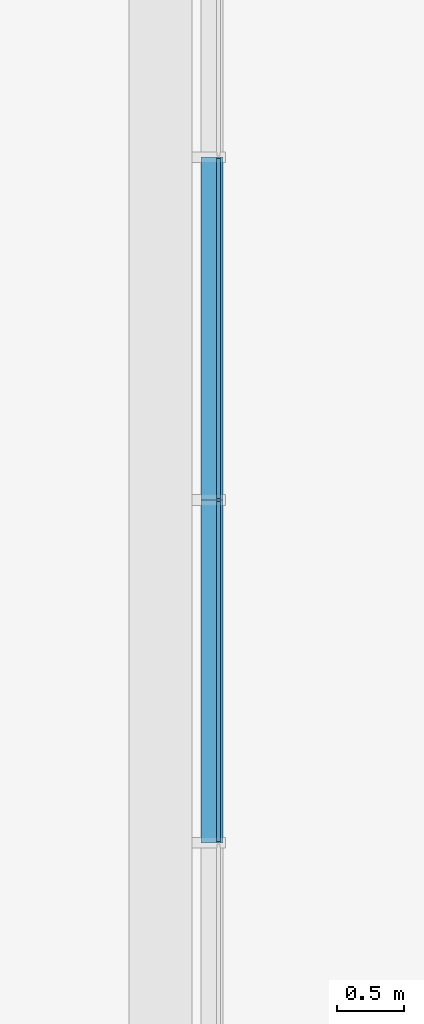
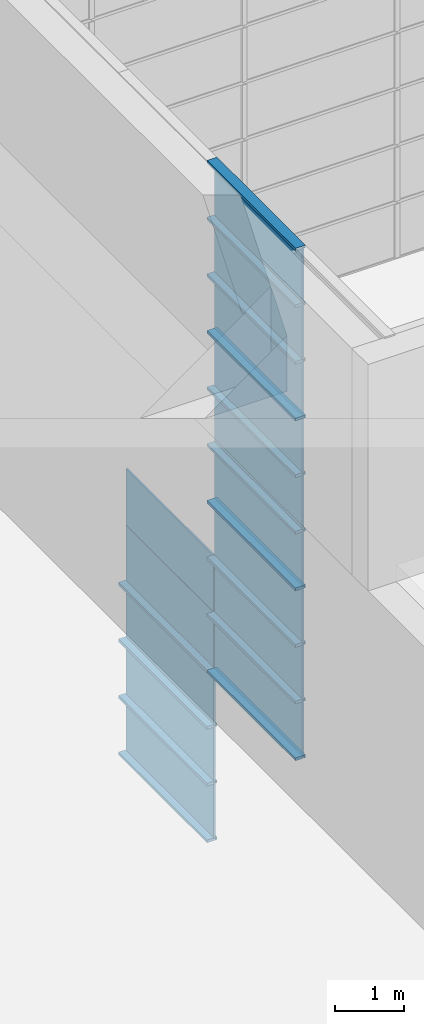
# One storey, part 25 of 105: 31 building element parts, 4 elements without a shape of their own.
"""IFC4 building model written with IfcOpenShell, lengths in millimetres."""

import ifcopenshell
import ifcopenshell.guid

model = None  # the IFC model being written
_history = None  # IfcOwnerHistory: only IFC2X3 demands one
_inside = {}  # id of a spatial element -> (the spatial element, [elements in it])
_under = {}  # id of a project, library or spatial element -> (it, [spatial elements below it])
_declared = {}  # id of a project -> (the project, [libraries it declares])
_typed = {}  # id of a type object -> (the type object, [elements of that type])
_made_of = {}  # id of a material, layer set ... -> (it, [elements and type objects made of it])


def new_model(schema):
    """Start an empty IFC model of exactly this schema.

    Asked for "IFC4X3", IfcOpenShell would pick the latest addendum, in which some entities
    have other attributes; the version numbers below select the first issue.
    IFC2X3 requires an IfcOwnerHistory on every rooted entity: one is made here for all.
    """
    global model, _history
    if schema == "IFC4X3":
        model = ifcopenshell.file(schema_version=(4, 3, 0, 0))
    else:
        model = ifcopenshell.file(schema=schema)
    _inside.clear()
    _under.clear()
    _declared.clear()
    _typed.clear()
    _made_of.clear()
    _history = None
    if model.schema == "IFC2X3":
        org = make("IfcOrganization", Name="unknown")
        user = make(
            "IfcPersonAndOrganization",
            ThePerson=make("IfcPerson", FamilyName="unknown"),
            TheOrganization=org,
        )
        app = make(
            "IfcApplication",
            ApplicationDeveloper=org,
            Version="unknown",
            ApplicationFullName="unknown",
            ApplicationIdentifier="unknown",
        )
        _history = make(
            "IfcOwnerHistory",
            OwningUser=user,
            OwningApplication=app,
            ChangeAction="ADDED",
            CreationDate=0,
        )
    return model


def make(cls, **values):
    """One entity of the class cls with the attributes given. An attribute that is None is left unset."""
    return model.create_entity(
        cls, **{name: value for name, value in values.items() if value is not None}
    )


def entity(cls, *values):
    """Any entity or typed value of the class cls, its attributes in the order of the schema. None: left unset."""
    e = model.create_entity(cls)
    for i, value in enumerate(values):
        if value is not None:
            e[i] = value
    return e


def rooted(cls, **values):
    """An entity with a GlobalId (a new one), such as an element, a storey or a relation."""
    return make(cls, GlobalId=ifcopenshell.guid.new(), OwnerHistory=_history, **values)


def si_unit(unit_type, name, prefix=None):
    """IfcSIUnit, for example si_unit("LENGTHUNIT", "METRE", prefix="MILLI")."""
    return make("IfcSIUnit", UnitType=unit_type, Prefix=prefix, Name=name)


def converted_unit(unit_type, name, factor, base, dimensions=None, offset=None):
    """IfcConversionBasedUnit, such as the inch: factor (a typed value) times the base unit."""
    return make(
        "IfcConversionBasedUnit"
        if offset is None
        else "IfcConversionBasedUnitWithOffset",
        ConversionOffset=offset,
        Dimensions=None
        if dimensions is None
        else entity("IfcDimensionalExponents", *dimensions),
        UnitType=unit_type,
        Name=name,
        ConversionFactor=make(
            "IfcMeasureWithUnit", ValueComponent=factor, UnitComponent=base
        ),
    )


def derived_unit(unit_type, elements):
    """IfcDerivedUnit: a product of units, each with its exponent."""
    return make(
        "IfcDerivedUnit",
        Elements=[
            make("IfcDerivedUnitElement", Unit=unit, Exponent=power)
            for unit, power in elements
        ],
        UnitType=unit_type,
    )


def assignment(units):
    """IfcUnitAssignment: the units of a project."""
    return None if units is None else make("IfcUnitAssignment", Units=units)


def point(xyz):
    """IfcCartesianPoint."""
    return None if xyz is None else make("IfcCartesianPoint", Coordinates=xyz)


def direction(xyz):
    """IfcDirection."""
    return None if xyz is None else make("IfcDirection", DirectionRatios=xyz)


def frame(location, z_axis=None, x_axis=None):
    """IfcAxis2Placement3D, a coordinate frame: its origin and axes. An axis left out is left unset."""
    return make(
        "IfcAxis2Placement3D",
        Location=point(location),
        Axis=direction(z_axis),
        RefDirection=direction(x_axis),
    )


def origin_with_axes():
    """The frame at (0, 0, 0) with the z axis (0, 0, 1) and the x axis (1, 0, 0) written out."""
    return frame((0.0, 0.0, 0.0), z_axis=(0.0, 0.0, 1.0), x_axis=(1.0, 0.0, 0.0))


def place(relative_to, where):
    """IfcLocalPlacement: puts the frame where relative to a parent placement (None: the world)."""
    return make(
        "IfcLocalPlacement", PlacementRelTo=relative_to, RelativePlacement=where
    )


def context(
    kind, dimensions, precision=None, world=None, true_north=None, identifier=None
):
    """IfcGeometricRepresentationContext, for example the 3D "Model" context."""
    return make(
        "IfcGeometricRepresentationContext",
        ContextIdentifier=identifier,
        ContextType=kind,
        CoordinateSpaceDimension=dimensions,
        Precision=precision,
        WorldCoordinateSystem=world,
        TrueNorth=true_north,
    )


def subcontext(parent, identifier, kind, view, scale=None):
    """IfcGeometricRepresentationSubContext, for example "Body" below "Model"."""
    return make(
        "IfcGeometricRepresentationSubContext",
        ContextIdentifier=identifier,
        ContextType=kind,
        ParentContext=parent,
        TargetScale=scale,
        TargetView=view,
    )


def project(units=None, contexts=None):
    """IfcProject with its units and contexts."""
    return rooted(
        "IfcProject",
        Name="project",
        RepresentationContexts=contexts,
        UnitsInContext=assignment(units),
    )


def spatial(cls, under=None, at=None, **own):
    """A site, building, storey or space (cls), placed at a placement, below another one or the project."""
    s = rooted(cls, ObjectPlacement=at, **own)
    if under is not None:
        _under.setdefault(under.id(), (under, []))[1].append(s)
    return s


def point_list(points):
    """IfcCartesianPointList2D or 3D."""
    cls = (
        "IfcCartesianPointList2D" if len(points[0]) == 2 else "IfcCartesianPointList3D"
    )
    return make(cls, CoordList=points)


def triangles(points, corners, closed=None, point_numbers=None):
    """IfcTriangulatedFaceSet: each triangle names its three corners, points numbered from 1."""
    return make(
        "IfcTriangulatedFaceSet",
        Coordinates=point_list(points),
        Closed=closed,
        CoordIndex=corners,
        PnIndex=point_numbers,
    )


def shape(context_of_items, identifier, shape_type, items):
    """IfcShapeRepresentation: the items that make up one representation, for example the "Body"."""
    return make(
        "IfcShapeRepresentation",
        ContextOfItems=context_of_items,
        RepresentationIdentifier=identifier,
        RepresentationType=shape_type,
        Items=items,
    )


def material(Name=None, Category=None):
    """IfcMaterial."""
    return make("IfcMaterial", Name=Name, Category=Category)


def made_of(thing, what):
    """Note that an element or type object is made of a material, layer set ...; save() writes the relation."""
    if what is not None:
        _made_of.setdefault(what.id(), (what, []))[1].append(thing)
    return thing


def element(
    cls,
    number,
    at=None,
    inside=None,
    cuts=None,
    type_object=None,
    material=None,
    context=None,
    identifier="Body",
    shape_type=None,
    held_by="IfcProductDefinitionShape",
    body=None,
    shapes=None,
    **own,
):
    """One element of the class cls, such as IfcWall. Its Tag is "e" and its number.

    at: its placement. inside: the storey or other place that contains it. cuts: it is an
    opening in that element (IfcRelVoidsElement). A single representation is given by context,
    identifier, shape_type and body (its items); several are given by shapes. held_by: the class
    of the entity that holds the representations. save() writes the other relations.
    """
    e = rooted(cls, Tag="e%d" % number, ObjectPlacement=at, **own)
    if body is not None:
        shapes = [shape(context, identifier, shape_type, body)]
    if shapes is not None:
        e.Representation = make(held_by, Representations=shapes)
    if inside is not None:
        _inside.setdefault(inside.id(), (inside, []))[1].append(e)
    if cuts is not None:
        rooted(
            "IfcRelVoidsElement", RelatingBuildingElement=cuts, RelatedOpeningElement=e
        )
    if type_object is not None:
        _typed.setdefault(type_object.id(), (type_object, []))[1].append(e)
    return made_of(e, material)


def aggregate(whole, parts):
    """IfcRelAggregates: a whole, such as a stair, and the parts it consists of."""
    return rooted("IfcRelAggregates", RelatingObject=whole, RelatedObjects=parts)


def save(model, path):
    """Write the relations noted so far, then the file.

    IfcRelAggregates (storeys below a building ...), IfcRelContainedInSpatialStructure (elements
    in a storey), IfcRelDefinesByType, IfcRelAssociatesMaterial and IfcRelDeclares: one each for
    every whole, place, type object, material and project.
    """
    for whole, parts in _under.values():
        aggregate(whole, parts)
    for where, things in _inside.values():
        rooted(
            "IfcRelContainedInSpatialStructure",
            RelatedElements=things,
            RelatingStructure=where,
        )
    for kind, things in _typed.values():
        rooted("IfcRelDefinesByType", RelatedObjects=things, RelatingType=kind)
    for what, things in _made_of.values():
        rooted("IfcRelAssociatesMaterial", RelatedObjects=things, RelatingMaterial=what)
    for by, libraries in _declared.values():
        rooted("IfcRelDeclares", RelatingContext=by, RelatedDefinitions=libraries)
    model.write(path)


model = new_model("IFC4")

# Units and contexts
model_context = context("Model", 3, precision=1e-05, world=origin_with_axes(), true_north=direction((0.0, 1.0)))
body_context = subcontext(model_context, "Body", "Model", "MODEL_VIEW")
ifc_project = project(units=[si_unit("LENGTHUNIT", "METRE", prefix="MILLI"), si_unit("AREAUNIT", "SQUARE_METRE"), si_unit("VOLUMEUNIT", "CUBIC_METRE"), converted_unit("PLANEANGLEUNIT", "DEGREE", entity("IfcLengthMeasure", 0.017453), si_unit("PLANEANGLEUNIT", "RADIAN"), dimensions=[0, 0, 0, 0, 0, 0, 0]), si_unit("SOLIDANGLEUNIT", "STERADIAN"), si_unit("MASSUNIT", "GRAM"), si_unit("TIMEUNIT", "SECOND"), si_unit("THERMODYNAMICTEMPERATUREUNIT", "DEGREE_CELSIUS"), si_unit("LUMINOUSINTENSITYUNIT", "LUMEN"), si_unit("POWERUNIT", "WATT"), derived_unit("THERMALTRANSMITTANCEUNIT", [(si_unit("POWERUNIT", "WATT"), 1), (si_unit("THERMODYNAMICTEMPERATUREUNIT", "KELVIN"), -1), (si_unit("AREAUNIT", "SQUARE_METRE"), -1)])], contexts=[model_context])

# Site, building, storey
site_placement = place(None, origin_with_axes())
site = spatial("IfcSite", under=ifc_project, at=site_placement, Name="Default Site", CompositionType="ELEMENT")
building_placement = place(site_placement, origin_with_axes())
building = spatial("IfcBuilding", under=site, at=building_placement, Name="Default Building", CompositionType="ELEMENT")
storey_placement = place(building_placement, origin_with_axes())
storey = spatial("IfcBuildingStorey", under=building, at=storey_placement, Name="OG - Story", CompositionType="ELEMENT", Elevation=0.0)

# Curtain wall, building element parts
curtain_wall_1_placement = place(storey_placement, origin_with_axes())
curtain_wall_1 = element("IfcCurtainWall", 1, at=curtain_wall_1_placement, inside=storey, Name="Fassade-006", PredefinedType="NOTDEFINED")
ifc_material_1 = material(Name="Normalglas")
building_element_part_1_placement = place(curtain_wall_1_placement, frame((51421.391327, -39309.262838, 0.0), z_axis=(0.0, 0.0, 1.0), x_axis=(1.0, 0.0, 0.0)))
building_element_part_1 = element("IfcBuildingElementPart", 2, at=building_element_part_1_placement, material=ifc_material_1, Name="Normalglas", PredefinedType="NOTDEFINED", context=body_context, shape_type="Tessellation", body=[
    triangles([(-14.999, 6390.0, 995.0), (-14.999, 3850.0, 995.0), (15.0, 3850.0, 995.0), (15.0, 6390.0, 995.0), (-14.999, 6390.0, 5.0), (-14.999, 3850.0, 5.0), (15.0, 3850.0, 5.0), (15.0, 6390.0, 5.0)], [[1, 2, 3], [1, 3, 4], [1, 5, 6], [1, 6, 2], [2, 6, 7], [2, 7, 3], [4, 3, 7], [4, 7, 8], [5, 1, 4], [5, 4, 8], [6, 5, 8], [6, 8, 7]], closed=False),
])
building_element_part_2_placement = place(curtain_wall_1_placement, frame((51421.391327, -39309.262838, 0.0), z_axis=(0.0, 0.0, 1.0), x_axis=(1.0, 0.0, 0.0)))
building_element_part_2 = element("IfcBuildingElementPart", 3, at=building_element_part_2_placement, material=ifc_material_1, Name="Normalglas", PredefinedType="NOTDEFINED", context=body_context, shape_type="Tessellation", body=[
    triangles([(-14.999, 6390.0, 1995.0), (-14.999, 3850.0, 1995.0), (15.0, 3850.0, 1995.0), (15.0, 6390.0, 1995.0), (-14.999, 6390.0, 1005.0), (-14.999, 3850.0, 1005.0), (15.0, 3850.0, 1005.0), (15.0, 6390.0, 1005.0)], [[1, 2, 3], [1, 3, 4], [1, 5, 6], [1, 6, 2], [2, 6, 7], [2, 7, 3], [4, 3, 7], [4, 7, 8], [5, 1, 4], [5, 4, 8], [6, 5, 8], [6, 8, 7]], closed=False),
])
building_element_part_3_placement = place(curtain_wall_1_placement, frame((51421.391327, -39309.262838, 0.0), z_axis=(0.0, 0.0, 1.0), x_axis=(1.0, 0.0, 0.0)))
building_element_part_3 = element("IfcBuildingElementPart", 4, at=building_element_part_3_placement, material=ifc_material_1, Name="Normalglas", PredefinedType="NOTDEFINED", context=body_context, shape_type="Tessellation", body=[
    triangles([(-14.999, 6390.0, 2995.0), (-14.999, 3850.0, 2995.0), (15.0, 3850.0, 2995.0), (15.0, 6390.0, 2995.0), (-14.999, 6390.0, 2005.0), (-14.999, 3850.0, 2005.0), (15.0, 3850.0, 2005.0), (15.0, 6390.0, 2005.0)], [[1, 2, 3], [1, 3, 4], [1, 5, 6], [1, 6, 2], [2, 6, 7], [2, 7, 3], [4, 3, 7], [4, 7, 8], [5, 1, 4], [5, 4, 8], [6, 5, 8], [6, 8, 7]], closed=False),
])
ifc_material_2 = material(Name="Blech")
building_element_part_4_placement = place(curtain_wall_1_placement, frame((51421.391327, -39309.262838, 0.0), z_axis=(0.0, 0.0, 1.0), x_axis=(1.0, 0.0, 0.0)))
building_element_part_4 = element("IfcBuildingElementPart", 5, at=building_element_part_4_placement, material=ifc_material_2, Name="Blech", PredefinedType="NOTDEFINED", context=body_context, shape_type="Tessellation", body=[
    triangles([(15.0, 6400.0, 5.0), (-14.999, 6400.0, 5.0), (-132.999, 6400.0, -24.999), (35.0, 6400.0, -24.999), (35.0, 6400.0, 25.0), (15.0, 6400.0, 25.0), (-132.999, 6400.0, 25.0), (-14.999, 6400.0, 25.0), (-14.999, 3840.0, 5.0), (15.0, 3840.0, 5.0), (15.0, 3840.0, 25.0), (35.0, 3840.0, 25.0), (35.0, 3840.0, -24.999), (-132.999, 3840.0, -24.999), (-132.999, 3840.0, 25.0), (-14.999, 3840.0, 25.0)], [[1, 2, 3], [1, 3, 4], [1, 4, 5], [1, 5, 6], [7, 3, 2], [7, 2, 8], [1, 2, 9], [1, 9, 10], [11, 6, 1], [11, 1, 10], [6, 11, 12], [6, 12, 5], [13, 4, 5], [13, 5, 12], [14, 3, 4], [14, 4, 13], [15, 7, 3], [15, 3, 14], [16, 8, 7], [16, 7, 15], [2, 8, 16], [2, 16, 9], [16, 15, 9], [9, 15, 14], [9, 14, 10], [10, 14, 13], [10, 13, 12], [10, 12, 11]], closed=False),
])
building_element_part_5_placement = place(curtain_wall_1_placement, frame((51421.391327, -39309.262838, 0.0), z_axis=(0.0, 0.0, 1.0), x_axis=(1.0, 0.0, 0.0)))
building_element_part_5 = element("IfcBuildingElementPart", 6, at=building_element_part_5_placement, material=ifc_material_2, Name="Blech", PredefinedType="NOTDEFINED", context=body_context, shape_type="Tessellation", body=[
    triangles([(15.0, 6400.0, 1025.0), (35.0, 6400.0, 1025.0), (15.0, 6400.0, 1005.0), (15.0, 6400.0, 995.0), (-14.999, 6400.0, 1005.0), (-132.999, 6400.0, 1025.0), (-14.999, 6400.0, 1025.0), (35.0, 6400.0, 975.0), (15.0, 6400.0, 975.0), (-14.999, 6400.0, 995.0), (-14.999, 6400.0, 975.0), (-132.999, 6400.0, 975.0), (-14.999, 3840.0, 995.0), (-14.999, 3840.0, 975.0), (-132.999, 3840.0, 975.0), (-132.999, 3840.0, 1025.0), (-14.999, 3840.0, 1025.0), (-14.999, 3840.0, 1005.0), (15.0, 3840.0, 1005.0), (15.0, 3840.0, 1025.0), (35.0, 3840.0, 1025.0), (35.0, 3840.0, 975.0), (15.0, 3840.0, 975.0), (15.0, 3840.0, 995.0)], [[1, 2, 3], [3, 2, 4], [3, 4, 5], [5, 4, 6], [5, 6, 7], [8, 9, 4], [8, 4, 2], [6, 4, 10], [6, 10, 11], [6, 11, 12], [11, 10, 13], [11, 13, 14], [11, 14, 15], [11, 15, 12], [6, 12, 15], [6, 15, 16], [7, 6, 16], [7, 16, 17], [7, 17, 18], [7, 18, 5], [5, 18, 19], [5, 19, 3], [1, 3, 19], [1, 19, 20], [20, 21, 2], [20, 2, 1], [8, 2, 21], [8, 21, 22], [23, 9, 8], [23, 8, 22], [4, 9, 23], [4, 23, 24], [10, 4, 24], [10, 24, 13], [17, 16, 18], [18, 16, 13], [18, 13, 19], [19, 13, 24], [19, 24, 21], [21, 24, 23], [21, 23, 22], [15, 14, 13], [15, 13, 16], [19, 21, 20]], closed=False),
])
building_element_part_6_placement = place(curtain_wall_1_placement, frame((51421.391327, -39309.262838, 0.0), z_axis=(0.0, 0.0, 1.0), x_axis=(1.0, 0.0, 0.0)))
building_element_part_6 = element("IfcBuildingElementPart", 7, at=building_element_part_6_placement, material=ifc_material_2, Name="Blech", PredefinedType="NOTDEFINED", context=body_context, shape_type="Tessellation", body=[
    triangles([(15.0, 3840.0, 2995.0), (-14.999, 3840.0, 2995.0), (-132.999, 3840.0, 3025.0), (35.0, 3840.0, 3025.0), (35.0, 3840.0, 2975.0), (15.0, 3840.0, 2975.0), (-14.999, 3840.0, 2975.0), (-132.999, 3840.0, 2975.0), (-14.999, 1280.0, 2995.0), (-14.999, 1280.0, 2975.0), (-132.999, 1280.0, 2975.0), (-132.999, 1280.0, 3025.0), (35.0, 1280.0, 3025.0), (35.0, 1280.0, 2975.0), (15.0, 1280.0, 2975.0), (15.0, 1280.0, 2995.0)], [[1, 2, 3], [1, 3, 4], [1, 4, 5], [1, 5, 6], [7, 8, 3], [7, 3, 2], [2, 9, 10], [2, 10, 7], [10, 11, 8], [10, 8, 7], [11, 12, 3], [11, 3, 8], [12, 13, 4], [12, 4, 3], [13, 14, 5], [13, 5, 4], [6, 5, 14], [6, 14, 15], [15, 16, 1], [15, 1, 6], [1, 16, 9], [1, 9, 2], [16, 9, 12], [16, 12, 13], [16, 13, 14], [16, 14, 15], [10, 11, 12], [10, 12, 9]], closed=False),
])
building_element_part_7_placement = place(curtain_wall_1_placement, frame((51421.391327, -39309.262838, 0.0), z_axis=(0.0, 0.0, 1.0), x_axis=(1.0, 0.0, 0.0)))
building_element_part_7 = element("IfcBuildingElementPart", 8, at=building_element_part_7_placement, material=ifc_material_2, Name="Blech", PredefinedType="NOTDEFINED", context=body_context, shape_type="Tessellation", body=[
    triangles([(15.0, 6400.0, 2025.0), (35.0, 6400.0, 2025.0), (15.0, 6400.0, 2005.0), (15.0, 6400.0, 1995.0), (-14.999, 6400.0, 2005.0), (-132.999, 6400.0, 2025.0), (-14.999, 6400.0, 2025.0), (35.0, 6400.0, 1975.0), (15.0, 6400.0, 1975.0), (-14.999, 6400.0, 1995.0), (-14.999, 6400.0, 1975.0), (-132.999, 6400.0, 1975.0), (-14.999, 3840.0, 1995.0), (-14.999, 3840.0, 1975.0), (-132.999, 3840.0, 1975.0), (-132.999, 3840.0, 2025.0), (-14.999, 3840.0, 2025.0), (-14.999, 3840.0, 2005.0), (15.0, 3840.0, 2005.0), (15.0, 3840.0, 2025.0), (35.0, 3840.0, 2025.0), (35.0, 3840.0, 1975.0), (15.0, 3840.0, 1975.0), (15.0, 3840.0, 1995.0)], [[1, 2, 3], [3, 2, 4], [3, 4, 5], [5, 4, 6], [5, 6, 7], [8, 9, 4], [8, 4, 2], [6, 4, 10], [6, 10, 11], [6, 11, 12], [11, 10, 13], [11, 13, 14], [11, 14, 15], [11, 15, 12], [6, 12, 15], [6, 15, 16], [7, 6, 16], [7, 16, 17], [7, 17, 18], [7, 18, 5], [5, 18, 19], [5, 19, 3], [1, 3, 19], [1, 19, 20], [20, 21, 2], [20, 2, 1], [8, 2, 21], [8, 21, 22], [23, 9, 8], [23, 8, 22], [4, 9, 23], [4, 23, 24], [10, 4, 24], [10, 24, 13], [17, 16, 18], [18, 16, 13], [18, 13, 19], [19, 13, 24], [19, 24, 21], [21, 24, 23], [21, 23, 22], [15, 14, 13], [15, 13, 16], [19, 21, 20]], closed=False),
])
building_element_part_8_placement = place(curtain_wall_1_placement, frame((51421.391327, -39309.262838, 0.0), z_axis=(0.0, 0.0, 1.0), x_axis=(1.0, 0.0, 0.0)))
building_element_part_8 = element("IfcBuildingElementPart", 9, at=building_element_part_8_placement, material=ifc_material_2, Name="Blech", PredefinedType="NOTDEFINED", context=body_context, shape_type="Tessellation", body=[
    triangles([(15.0, 6400.0, 2995.0), (-14.999, 6400.0, 2995.0), (-132.999, 6400.0, 3025.0), (35.0, 6400.0, 3025.0), (35.0, 6400.0, 2975.0), (15.0, 6400.0, 2975.0), (-14.999, 6400.0, 2975.0), (-132.999, 6400.0, 2975.0), (-14.999, 3840.0, 2995.0), (-14.999, 3840.0, 2975.0), (-132.999, 3840.0, 2975.0), (-132.999, 3840.0, 3025.0), (35.0, 3840.0, 3025.0), (35.0, 3840.0, 2975.0), (15.0, 3840.0, 2975.0), (15.0, 3840.0, 2995.0)], [[1, 2, 3], [1, 3, 4], [1, 4, 5], [1, 5, 6], [7, 8, 3], [7, 3, 2], [2, 9, 10], [2, 10, 7], [10, 11, 8], [10, 8, 7], [11, 12, 3], [11, 3, 8], [12, 13, 4], [12, 4, 3], [13, 14, 5], [13, 5, 4], [6, 5, 14], [6, 14, 15], [15, 16, 1], [15, 1, 6], [1, 16, 9], [1, 9, 2], [16, 9, 12], [16, 12, 13], [16, 13, 14], [16, 14, 15], [10, 11, 12], [10, 12, 9]], closed=False),
])
aggregate(curtain_wall_1, [building_element_part_1, building_element_part_2, building_element_part_3, building_element_part_4, building_element_part_5, building_element_part_6, building_element_part_7, building_element_part_8])

curtain_wall_2_placement = place(storey_placement, origin_with_axes())
curtain_wall_2 = element("IfcCurtainWall", 10, at=curtain_wall_2_placement, inside=storey, Name="Fassade-006", PredefinedType="NOTDEFINED")
building_element_part_9_placement = place(curtain_wall_2_placement, frame((51421.391327, -39309.262838, 3000.0), z_axis=(0.0, 0.0, 1.0), x_axis=(1.0, 0.0, 0.0)))
building_element_part_9 = element("IfcBuildingElementPart", 11, at=building_element_part_9_placement, material=ifc_material_1, Name="Normalglas", PredefinedType="NOTDEFINED", context=body_context, shape_type="Tessellation", body=[
    triangles([(-14.999, 3830.0, 995.0), (-14.999, 1290.0, 995.0), (15.0, 1290.0, 995.0), (15.0, 3830.0, 995.0), (-14.999, 3830.0, 5.0), (-14.999, 1290.0, 5.0), (15.0, 1290.0, 5.0), (15.0, 3830.0, 5.0)], [[1, 2, 3], [1, 3, 4], [1, 5, 6], [1, 6, 2], [2, 6, 7], [2, 7, 3], [4, 3, 7], [4, 7, 8], [5, 1, 4], [5, 4, 8], [6, 5, 8], [6, 8, 7]], closed=False),
])
building_element_part_10_placement = place(curtain_wall_2_placement, frame((51421.391327, -39309.262838, 3000.0), z_axis=(0.0, 0.0, 1.0), x_axis=(1.0, 0.0, 0.0)))
building_element_part_10 = element("IfcBuildingElementPart", 12, at=building_element_part_10_placement, material=ifc_material_1, Name="Normalglas", PredefinedType="NOTDEFINED", context=body_context, shape_type="Tessellation", body=[
    triangles([(-14.999, 6390.0, 995.0), (-14.999, 3850.0, 995.0), (15.0, 3850.0, 995.0), (15.0, 6390.0, 995.0), (-14.999, 6390.0, 5.0), (-14.999, 3850.0, 5.0), (15.0, 3850.0, 5.0), (15.0, 6390.0, 5.0)], [[1, 2, 3], [1, 3, 4], [1, 5, 6], [1, 6, 2], [2, 6, 7], [2, 7, 3], [4, 3, 7], [4, 7, 8], [5, 1, 4], [5, 4, 8], [6, 5, 8], [6, 8, 7]], closed=False),
])
building_element_part_11_placement = place(curtain_wall_2_placement, frame((51421.391327, -39309.262838, 3000.0), z_axis=(0.0, 0.0, 1.0), x_axis=(1.0, 0.0, 0.0)))
building_element_part_11 = element("IfcBuildingElementPart", 13, at=building_element_part_11_placement, material=ifc_material_1, Name="Normalglas", PredefinedType="NOTDEFINED", context=body_context, shape_type="Tessellation", body=[
    triangles([(-14.999, 3830.0, 1995.0), (-14.999, 1290.0, 1995.0), (15.0, 1290.0, 1995.0), (15.0, 3830.0, 1995.0), (-14.999, 3830.0, 1005.0), (-14.999, 1290.0, 1005.0), (15.0, 1290.0, 1005.0), (15.0, 3830.0, 1005.0)], [[1, 2, 3], [1, 3, 4], [1, 5, 6], [1, 6, 2], [2, 6, 7], [2, 7, 3], [4, 3, 7], [4, 7, 8], [5, 1, 4], [5, 4, 8], [6, 5, 8], [6, 8, 7]], closed=False),
])
building_element_part_12_placement = place(curtain_wall_2_placement, frame((51421.391327, -39309.262838, 3000.0), z_axis=(0.0, 0.0, 1.0), x_axis=(1.0, 0.0, 0.0)))
building_element_part_12 = element("IfcBuildingElementPart", 14, at=building_element_part_12_placement, material=ifc_material_1, Name="Normalglas", PredefinedType="NOTDEFINED", context=body_context, shape_type="Tessellation", body=[
    triangles([(-14.999, 6390.0, 1995.0), (-14.999, 3850.0, 1995.0), (15.0, 3850.0, 1995.0), (15.0, 6390.0, 1995.0), (-14.999, 6390.0, 1005.0), (-14.999, 3850.0, 1005.0), (15.0, 3850.0, 1005.0), (15.0, 6390.0, 1005.0)], [[1, 2, 3], [1, 3, 4], [1, 5, 6], [1, 6, 2], [2, 6, 7], [2, 7, 3], [4, 3, 7], [4, 7, 8], [5, 1, 4], [5, 4, 8], [6, 5, 8], [6, 8, 7]], closed=False),
])
building_element_part_13_placement = place(curtain_wall_2_placement, frame((51421.391327, -39309.262838, 3000.0), z_axis=(0.0, 0.0, 1.0), x_axis=(1.0, 0.0, 0.0)))
building_element_part_13 = element("IfcBuildingElementPart", 15, at=building_element_part_13_placement, material=ifc_material_1, Name="Normalglas", PredefinedType="NOTDEFINED", context=body_context, shape_type="Tessellation", body=[
    triangles([(-14.999, 3830.0, 2995.0), (-14.999, 1290.0, 2995.0), (15.0, 1290.0, 2995.0), (15.0, 3830.0, 2995.0), (-14.999, 3830.0, 2005.0), (-14.999, 1290.0, 2005.0), (15.0, 1290.0, 2005.0), (15.0, 3830.0, 2005.0)], [[1, 2, 3], [1, 3, 4], [1, 5, 6], [1, 6, 2], [2, 6, 7], [2, 7, 3], [4, 3, 7], [4, 7, 8], [5, 1, 4], [5, 4, 8], [6, 5, 8], [6, 8, 7]], closed=False),
])
building_element_part_14_placement = place(curtain_wall_2_placement, frame((51421.391327, -39309.262838, 3000.0), z_axis=(0.0, 0.0, 1.0), x_axis=(1.0, 0.0, 0.0)))
building_element_part_14 = element("IfcBuildingElementPart", 16, at=building_element_part_14_placement, material=ifc_material_2, Name="Blech", PredefinedType="NOTDEFINED", context=body_context, shape_type="Tessellation", body=[
    triangles([(15.0, 3840.0, 5.0), (-14.999, 3840.0, 5.0), (-132.999, 3840.0, -24.999), (35.0, 3840.0, -24.999), (35.0, 3840.0, 25.0), (15.0, 3840.0, 25.0), (-132.999, 3840.0, 25.0), (-14.999, 3840.0, 25.0), (-14.999, 1280.0, 5.0), (15.0, 1280.0, 5.0), (15.0, 1280.0, 25.0), (35.0, 1280.0, 25.0), (35.0, 1280.0, -24.999), (-132.999, 1280.0, -24.999), (-132.999, 1280.0, 25.0), (-14.999, 1280.0, 25.0)], [[1, 2, 3], [1, 3, 4], [1, 4, 5], [1, 5, 6], [7, 3, 2], [7, 2, 8], [1, 2, 9], [1, 9, 10], [11, 6, 1], [11, 1, 10], [6, 11, 12], [6, 12, 5], [13, 4, 5], [13, 5, 12], [14, 3, 4], [14, 4, 13], [15, 7, 3], [15, 3, 14], [16, 8, 7], [16, 7, 15], [2, 8, 16], [2, 16, 9], [16, 15, 9], [9, 15, 14], [9, 14, 10], [10, 14, 13], [10, 13, 12], [10, 12, 11]], closed=False),
])
building_element_part_15_placement = place(curtain_wall_2_placement, frame((51421.391327, -39309.262838, 3000.0), z_axis=(0.0, 0.0, 1.0), x_axis=(1.0, 0.0, 0.0)))
building_element_part_15 = element("IfcBuildingElementPart", 17, at=building_element_part_15_placement, material=ifc_material_2, Name="Blech", PredefinedType="NOTDEFINED", context=body_context, shape_type="Tessellation", body=[
    triangles([(15.0, 3840.0, 1025.0), (35.0, 3840.0, 1025.0), (15.0, 3840.0, 1005.0), (15.0, 3840.0, 995.0), (-14.999, 3840.0, 1005.0), (-132.999, 3840.0, 1025.0), (-14.999, 3840.0, 1025.0), (35.0, 3840.0, 975.0), (15.0, 3840.0, 975.0), (-14.999, 3840.0, 995.0), (-14.999, 3840.0, 975.0), (-132.999, 3840.0, 975.0), (-14.999, 1280.0, 995.0), (-14.999, 1280.0, 975.0), (-132.999, 1280.0, 975.0), (-132.999, 1280.0, 1025.0), (-14.999, 1280.0, 1025.0), (-14.999, 1280.0, 1005.0), (15.0, 1280.0, 1005.0), (15.0, 1280.0, 1025.0), (35.0, 1280.0, 1025.0), (35.0, 1280.0, 975.0), (15.0, 1280.0, 975.0), (15.0, 1280.0, 995.0)], [[1, 2, 3], [3, 2, 4], [3, 4, 5], [5, 4, 6], [5, 6, 7], [8, 9, 4], [8, 4, 2], [6, 4, 10], [6, 10, 11], [6, 11, 12], [11, 10, 13], [11, 13, 14], [11, 14, 15], [11, 15, 12], [6, 12, 15], [6, 15, 16], [7, 6, 16], [7, 16, 17], [7, 17, 18], [7, 18, 5], [5, 18, 19], [5, 19, 3], [1, 3, 19], [1, 19, 20], [20, 21, 2], [20, 2, 1], [8, 2, 21], [8, 21, 22], [23, 9, 8], [23, 8, 22], [4, 9, 23], [4, 23, 24], [10, 4, 24], [10, 24, 13], [17, 16, 18], [18, 16, 13], [18, 13, 19], [19, 13, 24], [19, 24, 21], [21, 24, 23], [21, 23, 22], [15, 14, 13], [15, 13, 16], [19, 21, 20]], closed=False),
])
building_element_part_16_placement = place(curtain_wall_2_placement, frame((51421.391327, -39309.262838, 3000.0), z_axis=(0.0, 0.0, 1.0), x_axis=(1.0, 0.0, 0.0)))
building_element_part_16 = element("IfcBuildingElementPart", 18, at=building_element_part_16_placement, material=ifc_material_2, Name="Blech", PredefinedType="NOTDEFINED", context=body_context, shape_type="Tessellation", body=[
    triangles([(15.0, 3840.0, 2025.0), (35.0, 3840.0, 2025.0), (15.0, 3840.0, 2005.0), (15.0, 3840.0, 1995.0), (-14.999, 3840.0, 2005.0), (-132.999, 3840.0, 2025.0), (-14.999, 3840.0, 2025.0), (35.0, 3840.0, 1975.0), (15.0, 3840.0, 1975.0), (-14.999, 3840.0, 1995.0), (-14.999, 3840.0, 1975.0), (-132.999, 3840.0, 1975.0), (-14.999, 1280.0, 1995.0), (-14.999, 1280.0, 1975.0), (-132.999, 1280.0, 1975.0), (-132.999, 1280.0, 2025.0), (-14.999, 1280.0, 2025.0), (-14.999, 1280.0, 2005.0), (15.0, 1280.0, 2005.0), (15.0, 1280.0, 2025.0), (35.0, 1280.0, 2025.0), (35.0, 1280.0, 1975.0), (15.0, 1280.0, 1975.0), (15.0, 1280.0, 1995.0)], [[1, 2, 3], [3, 2, 4], [3, 4, 5], [5, 4, 6], [5, 6, 7], [8, 9, 4], [8, 4, 2], [6, 4, 10], [6, 10, 11], [6, 11, 12], [11, 10, 13], [11, 13, 14], [11, 14, 15], [11, 15, 12], [6, 12, 15], [6, 15, 16], [7, 6, 16], [7, 16, 17], [7, 17, 18], [7, 18, 5], [5, 18, 19], [5, 19, 3], [1, 3, 19], [1, 19, 20], [20, 21, 2], [20, 2, 1], [8, 2, 21], [8, 21, 22], [23, 9, 8], [23, 8, 22], [4, 9, 23], [4, 23, 24], [10, 4, 24], [10, 24, 13], [17, 16, 18], [18, 16, 13], [18, 13, 19], [19, 13, 24], [19, 24, 21], [21, 24, 23], [21, 23, 22], [15, 14, 13], [15, 13, 16], [19, 21, 20]], closed=False),
])
building_element_part_17_placement = place(curtain_wall_2_placement, frame((51421.391327, -39309.262838, 3000.0), z_axis=(0.0, 0.0, 1.0), x_axis=(1.0, 0.0, 0.0)))
building_element_part_17 = element("IfcBuildingElementPart", 19, at=building_element_part_17_placement, material=ifc_material_2, Name="Blech", PredefinedType="NOTDEFINED", context=body_context, shape_type="Tessellation", body=[
    triangles([(15.0, 3840.0, 2995.0), (-14.999, 3840.0, 2995.0), (-132.999, 3840.0, 3025.0), (35.0, 3840.0, 3025.0), (35.0, 3840.0, 2975.0), (15.0, 3840.0, 2975.0), (-14.999, 3840.0, 2975.0), (-132.999, 3840.0, 2975.0), (-14.999, 1280.0, 2995.0), (-14.999, 1280.0, 2975.0), (-132.999, 1280.0, 2975.0), (-132.999, 1280.0, 3025.0), (35.0, 1280.0, 3025.0), (35.0, 1280.0, 2975.0), (15.0, 1280.0, 2975.0), (15.0, 1280.0, 2995.0)], [[1, 2, 3], [1, 3, 4], [1, 4, 5], [1, 5, 6], [7, 8, 3], [7, 3, 2], [2, 9, 10], [2, 10, 7], [10, 11, 8], [10, 8, 7], [11, 12, 3], [11, 3, 8], [12, 13, 4], [12, 4, 3], [13, 14, 5], [13, 5, 4], [6, 5, 14], [6, 14, 15], [15, 16, 1], [15, 1, 6], [1, 16, 9], [1, 9, 2], [16, 9, 12], [16, 12, 13], [16, 13, 14], [16, 14, 15], [10, 11, 12], [10, 12, 9]], closed=False),
])
aggregate(curtain_wall_2, [building_element_part_9, building_element_part_10, building_element_part_11, building_element_part_12, building_element_part_13, building_element_part_14, building_element_part_15, building_element_part_16, building_element_part_17])

curtain_wall_3_placement = place(storey_placement, origin_with_axes())
curtain_wall_3 = element("IfcCurtainWall", 20, at=curtain_wall_3_placement, inside=storey, Name="Fassade-006", PredefinedType="NOTDEFINED")
building_element_part_18_placement = place(curtain_wall_3_placement, frame((51421.391327, -39309.262838, 6000.0), z_axis=(0.0, 0.0, 1.0), x_axis=(1.0, 0.0, 0.0)))
building_element_part_18 = element("IfcBuildingElementPart", 21, at=building_element_part_18_placement, material=ifc_material_1, Name="Normalglas", PredefinedType="NOTDEFINED", context=body_context, shape_type="Tessellation", body=[
    triangles([(-14.999, 3830.0, 995.0), (-14.999, 1290.0, 995.0), (15.0, 1290.0, 995.0), (15.0, 3830.0, 995.0), (-14.999, 3830.0, 5.0), (-14.999, 1290.0, 5.0), (15.0, 1290.0, 5.0), (15.0, 3830.0, 5.0)], [[1, 2, 3], [1, 3, 4], [1, 5, 6], [1, 6, 2], [2, 6, 7], [2, 7, 3], [4, 3, 7], [4, 7, 8], [5, 1, 4], [5, 4, 8], [6, 5, 8], [6, 8, 7]], closed=False),
])
building_element_part_19_placement = place(curtain_wall_3_placement, frame((51421.391327, -39309.262838, 6000.0), z_axis=(0.0, 0.0, 1.0), x_axis=(1.0, 0.0, 0.0)))
building_element_part_19 = element("IfcBuildingElementPart", 22, at=building_element_part_19_placement, material=ifc_material_1, Name="Normalglas", PredefinedType="NOTDEFINED", context=body_context, shape_type="Tessellation", body=[
    triangles([(-14.999, 3830.0, 1995.0), (-14.999, 1290.0, 1995.0), (15.0, 1290.0, 1995.0), (15.0, 3830.0, 1995.0), (-14.999, 3830.0, 1005.0), (-14.999, 1290.0, 1005.0), (15.0, 1290.0, 1005.0), (15.0, 3830.0, 1005.0)], [[1, 2, 3], [1, 3, 4], [1, 5, 6], [1, 6, 2], [2, 6, 7], [2, 7, 3], [4, 3, 7], [4, 7, 8], [5, 1, 4], [5, 4, 8], [6, 5, 8], [6, 8, 7]], closed=False),
])
building_element_part_20_placement = place(curtain_wall_3_placement, frame((51421.391327, -39309.262838, 6000.0), z_axis=(0.0, 0.0, 1.0), x_axis=(1.0, 0.0, 0.0)))
building_element_part_20 = element("IfcBuildingElementPart", 23, at=building_element_part_20_placement, material=ifc_material_1, Name="Normalglas", PredefinedType="NOTDEFINED", context=body_context, shape_type="Tessellation", body=[
    triangles([(-14.999, 3830.0, 2995.0), (-14.999, 1290.0, 2995.0), (15.0, 1290.0, 2995.0), (15.0, 3830.0, 2995.0), (-14.999, 3830.0, 2005.0), (-14.999, 1290.0, 2005.0), (15.0, 1290.0, 2005.0), (15.0, 3830.0, 2005.0)], [[1, 2, 3], [1, 3, 4], [1, 5, 6], [1, 6, 2], [2, 6, 7], [2, 7, 3], [4, 3, 7], [4, 7, 8], [5, 1, 4], [5, 4, 8], [6, 5, 8], [6, 8, 7]], closed=False),
])
building_element_part_21_placement = place(curtain_wall_3_placement, frame((51421.391327, -39309.262838, 6000.0), z_axis=(0.0, 0.0, 1.0), x_axis=(1.0, 0.0, 0.0)))
building_element_part_21 = element("IfcBuildingElementPart", 24, at=building_element_part_21_placement, material=ifc_material_2, Name="Blech", PredefinedType="NOTDEFINED", context=body_context, shape_type="Tessellation", body=[
    triangles([(15.0, 3840.0, 5.0), (-14.999, 3840.0, 5.0), (-132.999, 3840.0, -24.999), (35.0, 3840.0, -24.999), (35.0, 3840.0, 25.0), (15.0, 3840.0, 25.0), (-132.999, 3840.0, 25.0), (-14.999, 3840.0, 25.0), (-14.999, 1280.0, 5.0), (15.0, 1280.0, 5.0), (15.0, 1280.0, 25.0), (35.0, 1280.0, 25.0), (35.0, 1280.0, -24.999), (-132.999, 1280.0, -24.999), (-132.999, 1280.0, 25.0), (-14.999, 1280.0, 25.0)], [[1, 2, 3], [1, 3, 4], [1, 4, 5], [1, 5, 6], [7, 3, 2], [7, 2, 8], [1, 2, 9], [1, 9, 10], [11, 6, 1], [11, 1, 10], [6, 11, 12], [6, 12, 5], [13, 4, 5], [13, 5, 12], [14, 3, 4], [14, 4, 13], [15, 7, 3], [15, 3, 14], [16, 8, 7], [16, 7, 15], [2, 8, 16], [2, 16, 9], [16, 15, 9], [9, 15, 14], [9, 14, 10], [10, 14, 13], [10, 13, 12], [10, 12, 11]], closed=False),
])
building_element_part_22_placement = place(curtain_wall_3_placement, frame((51421.391327, -39309.262838, 6000.0), z_axis=(0.0, 0.0, 1.0), x_axis=(1.0, 0.0, 0.0)))
building_element_part_22 = element("IfcBuildingElementPart", 25, at=building_element_part_22_placement, material=ifc_material_2, Name="Blech", PredefinedType="NOTDEFINED", context=body_context, shape_type="Tessellation", body=[
    triangles([(15.0, 3840.0, 1025.0), (35.0, 3840.0, 1025.0), (15.0, 3840.0, 1005.0), (15.0, 3840.0, 995.0), (-14.999, 3840.0, 1005.0), (-132.999, 3840.0, 1025.0), (-14.999, 3840.0, 1025.0), (35.0, 3840.0, 975.0), (15.0, 3840.0, 975.0), (-14.999, 3840.0, 995.0), (-14.999, 3840.0, 975.0), (-132.999, 3840.0, 975.0), (-14.999, 1280.0, 995.0), (-14.999, 1280.0, 975.0), (-132.999, 1280.0, 975.0), (-132.999, 1280.0, 1025.0), (-14.999, 1280.0, 1025.0), (-14.999, 1280.0, 1005.0), (15.0, 1280.0, 1005.0), (15.0, 1280.0, 1025.0), (35.0, 1280.0, 1025.0), (35.0, 1280.0, 975.0), (15.0, 1280.0, 975.0), (15.0, 1280.0, 995.0)], [[1, 2, 3], [3, 2, 4], [3, 4, 5], [5, 4, 6], [5, 6, 7], [8, 9, 4], [8, 4, 2], [6, 4, 10], [6, 10, 11], [6, 11, 12], [11, 10, 13], [11, 13, 14], [11, 14, 15], [11, 15, 12], [6, 12, 15], [6, 15, 16], [7, 6, 16], [7, 16, 17], [7, 17, 18], [7, 18, 5], [5, 18, 19], [5, 19, 3], [1, 3, 19], [1, 19, 20], [20, 21, 2], [20, 2, 1], [8, 2, 21], [8, 21, 22], [23, 9, 8], [23, 8, 22], [4, 9, 23], [4, 23, 24], [10, 4, 24], [10, 24, 13], [17, 16, 18], [18, 16, 13], [18, 13, 19], [19, 13, 24], [19, 24, 21], [21, 24, 23], [21, 23, 22], [15, 14, 13], [15, 13, 16], [19, 21, 20]], closed=False),
])
building_element_part_23_placement = place(curtain_wall_3_placement, frame((51421.391327, -39309.262838, 6000.0), z_axis=(0.0, 0.0, 1.0), x_axis=(1.0, 0.0, 0.0)))
building_element_part_23 = element("IfcBuildingElementPart", 26, at=building_element_part_23_placement, material=ifc_material_2, Name="Blech", PredefinedType="NOTDEFINED", context=body_context, shape_type="Tessellation", body=[
    triangles([(15.0, 3840.0, 2025.0), (35.0, 3840.0, 2025.0), (15.0, 3840.0, 2005.0), (15.0, 3840.0, 1995.0), (-14.999, 3840.0, 2005.0), (-132.999, 3840.0, 2025.0), (-14.999, 3840.0, 2025.0), (35.0, 3840.0, 1975.0), (15.0, 3840.0, 1975.0), (-14.999, 3840.0, 1995.0), (-14.999, 3840.0, 1975.0), (-132.999, 3840.0, 1975.0), (-14.999, 1280.0, 1995.0), (-14.999, 1280.0, 1975.0), (-132.999, 1280.0, 1975.0), (-132.999, 1280.0, 2025.0), (-14.999, 1280.0, 2025.0), (-14.999, 1280.0, 2005.0), (15.0, 1280.0, 2005.0), (15.0, 1280.0, 2025.0), (35.0, 1280.0, 2025.0), (35.0, 1280.0, 1975.0), (15.0, 1280.0, 1975.0), (15.0, 1280.0, 1995.0)], [[1, 2, 3], [3, 2, 4], [3, 4, 5], [5, 4, 6], [5, 6, 7], [8, 9, 4], [8, 4, 2], [6, 4, 10], [6, 10, 11], [6, 11, 12], [11, 10, 13], [11, 13, 14], [11, 14, 15], [11, 15, 12], [6, 12, 15], [6, 15, 16], [7, 6, 16], [7, 16, 17], [7, 17, 18], [7, 18, 5], [5, 18, 19], [5, 19, 3], [1, 3, 19], [1, 19, 20], [20, 21, 2], [20, 2, 1], [8, 2, 21], [8, 21, 22], [23, 9, 8], [23, 8, 22], [4, 9, 23], [4, 23, 24], [10, 4, 24], [10, 24, 13], [17, 16, 18], [18, 16, 13], [18, 13, 19], [19, 13, 24], [19, 24, 21], [21, 24, 23], [21, 23, 22], [15, 14, 13], [15, 13, 16], [19, 21, 20]], closed=False),
])
building_element_part_24_placement = place(curtain_wall_3_placement, frame((51421.391327, -39309.262838, 6000.0), z_axis=(0.0, 0.0, 1.0), x_axis=(1.0, 0.0, 0.0)))
building_element_part_24 = element("IfcBuildingElementPart", 27, at=building_element_part_24_placement, material=ifc_material_2, Name="Blech", PredefinedType="NOTDEFINED", context=body_context, shape_type="Tessellation", body=[
    triangles([(15.0, 3840.0, 2995.0), (-14.999, 3840.0, 2995.0), (-132.999, 3840.0, 3025.0), (35.0, 3840.0, 3025.0), (35.0, 3840.0, 2975.0), (15.0, 3840.0, 2975.0), (-14.999, 3840.0, 2975.0), (-132.999, 3840.0, 2975.0), (-14.999, 1280.0, 2995.0), (-14.999, 1280.0, 2975.0), (-132.999, 1280.0, 2975.0), (-132.999, 1280.0, 3025.0), (35.0, 1280.0, 3025.0), (35.0, 1280.0, 2975.0), (15.0, 1280.0, 2975.0), (15.0, 1280.0, 2995.0)], [[1, 2, 3], [1, 3, 4], [1, 4, 5], [1, 5, 6], [7, 8, 3], [7, 3, 2], [2, 9, 10], [2, 10, 7], [10, 11, 8], [10, 8, 7], [11, 12, 3], [11, 3, 8], [12, 13, 4], [12, 4, 3], [13, 14, 5], [13, 5, 4], [6, 5, 14], [6, 14, 15], [15, 16, 1], [15, 1, 6], [1, 16, 9], [1, 9, 2], [16, 9, 12], [16, 12, 13], [16, 13, 14], [16, 14, 15], [10, 11, 12], [10, 12, 9]], closed=False),
])
aggregate(curtain_wall_3, [building_element_part_18, building_element_part_19, building_element_part_20, building_element_part_21, building_element_part_22, building_element_part_23, building_element_part_24])

curtain_wall_4_placement = place(storey_placement, origin_with_axes())
curtain_wall_4 = element("IfcCurtainWall", 28, at=curtain_wall_4_placement, inside=storey, Name="Fassade-006", PredefinedType="NOTDEFINED")
building_element_part_25_placement = place(curtain_wall_4_placement, frame((51421.391327, -39309.262838, 9000.0), z_axis=(0.0, 0.0, 1.0), x_axis=(1.0, 0.0, 0.0)))
building_element_part_25 = element("IfcBuildingElementPart", 29, at=building_element_part_25_placement, material=ifc_material_1, Name="Normalglas", PredefinedType="NOTDEFINED", context=body_context, shape_type="Tessellation", body=[
    triangles([(-14.999, 3830.0, 995.0), (-14.999, 1290.0, 995.0), (15.0, 1290.0, 995.0), (15.0, 3830.0, 995.0), (-14.999, 3830.0, 5.0), (-14.999, 1290.0, 5.0), (15.0, 1290.0, 5.0), (15.0, 3830.0, 5.0)], [[1, 2, 3], [1, 3, 4], [1, 5, 6], [1, 6, 2], [2, 6, 7], [2, 7, 3], [4, 3, 7], [4, 7, 8], [5, 1, 4], [5, 4, 8], [6, 5, 8], [6, 8, 7]], closed=False),
])
building_element_part_26_placement = place(curtain_wall_4_placement, frame((51421.391327, -39309.262838, 9000.0), z_axis=(0.0, 0.0, 1.0), x_axis=(1.0, 0.0, 0.0)))
building_element_part_26 = element("IfcBuildingElementPart", 30, at=building_element_part_26_placement, material=ifc_material_1, Name="Normalglas", PredefinedType="NOTDEFINED", context=body_context, shape_type="Tessellation", body=[
    triangles([(-14.999, 3830.0, 1995.0), (-14.999, 1290.0, 1995.0), (15.0, 1290.0, 1995.0), (15.0, 3830.0, 1995.0), (-14.999, 3830.0, 1005.0), (-14.999, 1290.0, 1005.0), (15.0, 1290.0, 1005.0), (15.0, 3830.0, 1005.0)], [[1, 2, 3], [1, 3, 4], [1, 5, 6], [1, 6, 2], [2, 6, 7], [2, 7, 3], [4, 3, 7], [4, 7, 8], [5, 1, 4], [5, 4, 8], [6, 5, 8], [6, 8, 7]], closed=False),
])
building_element_part_27_placement = place(curtain_wall_4_placement, frame((51421.391327, -39309.262838, 9000.0), z_axis=(0.0, 0.0, 1.0), x_axis=(1.0, 0.0, 0.0)))
building_element_part_27 = element("IfcBuildingElementPart", 31, at=building_element_part_27_placement, material=ifc_material_1, Name="Normalglas", PredefinedType="NOTDEFINED", context=body_context, shape_type="Tessellation", body=[
    triangles([(-14.999, 3830.0, 2995.0), (-14.999, 1290.0, 2995.0), (15.0, 1290.0, 2995.0), (15.0, 3830.0, 2995.0), (-14.999, 3830.0, 2005.0), (-14.999, 1290.0, 2005.0), (15.0, 1290.0, 2005.0), (15.0, 3830.0, 2005.0)], [[1, 2, 3], [1, 3, 4], [1, 5, 6], [1, 6, 2], [2, 6, 7], [2, 7, 3], [4, 3, 7], [4, 7, 8], [5, 1, 4], [5, 4, 8], [6, 5, 8], [6, 8, 7]], closed=False),
])
building_element_part_28_placement = place(curtain_wall_4_placement, frame((51421.391327, -39309.262838, 9000.0), z_axis=(0.0, 0.0, 1.0), x_axis=(1.0, 0.0, 0.0)))
building_element_part_28 = element("IfcBuildingElementPart", 32, at=building_element_part_28_placement, material=ifc_material_2, Name="Blech", PredefinedType="NOTDEFINED", context=body_context, shape_type="Tessellation", body=[
    triangles([(15.0, 3840.0, 5.0), (-14.999, 3840.0, 5.0), (-132.999, 3840.0, -24.999), (35.0, 3840.0, -24.999), (35.0, 3840.0, 25.0), (15.0, 3840.0, 25.0), (-132.999, 3840.0, 25.0), (-14.999, 3840.0, 25.0), (-14.999, 1280.0, 5.0), (15.0, 1280.0, 5.0), (15.0, 1280.0, 25.0), (35.0, 1280.0, 25.0), (35.0, 1280.0, -24.999), (-132.999, 1280.0, -24.999), (-132.999, 1280.0, 25.0), (-14.999, 1280.0, 25.0)], [[1, 2, 3], [1, 3, 4], [1, 4, 5], [1, 5, 6], [7, 3, 2], [7, 2, 8], [1, 2, 9], [1, 9, 10], [11, 6, 1], [11, 1, 10], [6, 11, 12], [6, 12, 5], [13, 4, 5], [13, 5, 12], [14, 3, 4], [14, 4, 13], [15, 7, 3], [15, 3, 14], [16, 8, 7], [16, 7, 15], [2, 8, 16], [2, 16, 9], [16, 15, 9], [9, 15, 14], [9, 14, 10], [10, 14, 13], [10, 13, 12], [10, 12, 11]], closed=False),
])
building_element_part_29_placement = place(curtain_wall_4_placement, frame((51421.391327, -39309.262838, 9000.0), z_axis=(0.0, 0.0, 1.0), x_axis=(1.0, 0.0, 0.0)))
building_element_part_29 = element("IfcBuildingElementPart", 33, at=building_element_part_29_placement, material=ifc_material_2, Name="Blech", PredefinedType="NOTDEFINED", context=body_context, shape_type="Tessellation", body=[
    triangles([(15.0, 3840.0, 1025.0), (35.0, 3840.0, 1025.0), (15.0, 3840.0, 1005.0), (15.0, 3840.0, 995.0), (-14.999, 3840.0, 1005.0), (-132.999, 3840.0, 1025.0), (-14.999, 3840.0, 1025.0), (35.0, 3840.0, 975.0), (15.0, 3840.0, 975.0), (-14.999, 3840.0, 995.0), (-14.999, 3840.0, 975.0), (-132.999, 3840.0, 975.0), (-14.999, 1280.0, 995.0), (-14.999, 1280.0, 975.0), (-132.999, 1280.0, 975.0), (-132.999, 1280.0, 1025.0), (-14.999, 1280.0, 1025.0), (-14.999, 1280.0, 1005.0), (15.0, 1280.0, 1005.0), (15.0, 1280.0, 1025.0), (35.0, 1280.0, 1025.0), (35.0, 1280.0, 975.0), (15.0, 1280.0, 975.0), (15.0, 1280.0, 995.0)], [[1, 2, 3], [3, 2, 4], [3, 4, 5], [5, 4, 6], [5, 6, 7], [8, 9, 4], [8, 4, 2], [6, 4, 10], [6, 10, 11], [6, 11, 12], [11, 10, 13], [11, 13, 14], [11, 14, 15], [11, 15, 12], [6, 12, 15], [6, 15, 16], [7, 6, 16], [7, 16, 17], [7, 17, 18], [7, 18, 5], [5, 18, 19], [5, 19, 3], [1, 3, 19], [1, 19, 20], [20, 21, 2], [20, 2, 1], [8, 2, 21], [8, 21, 22], [23, 9, 8], [23, 8, 22], [4, 9, 23], [4, 23, 24], [10, 4, 24], [10, 24, 13], [17, 16, 18], [18, 16, 13], [18, 13, 19], [19, 13, 24], [19, 24, 21], [21, 24, 23], [21, 23, 22], [15, 14, 13], [15, 13, 16], [19, 21, 20]], closed=False),
])
building_element_part_30_placement = place(curtain_wall_4_placement, frame((51421.391327, -39309.262838, 9000.0), z_axis=(0.0, 0.0, 1.0), x_axis=(1.0, 0.0, 0.0)))
building_element_part_30 = element("IfcBuildingElementPart", 34, at=building_element_part_30_placement, material=ifc_material_2, Name="Blech", PredefinedType="NOTDEFINED", context=body_context, shape_type="Tessellation", body=[
    triangles([(15.0, 3840.0, 2025.0), (35.0, 3840.0, 2025.0), (15.0, 3840.0, 2005.0), (15.0, 3840.0, 1995.0), (-14.999, 3840.0, 2005.0), (-132.999, 3840.0, 2025.0), (-14.999, 3840.0, 2025.0), (35.0, 3840.0, 1975.0), (15.0, 3840.0, 1975.0), (-14.999, 3840.0, 1995.0), (-14.999, 3840.0, 1975.0), (-132.999, 3840.0, 1975.0), (-14.999, 1280.0, 1995.0), (-14.999, 1280.0, 1975.0), (-132.999, 1280.0, 1975.0), (-132.999, 1280.0, 2025.0), (-14.999, 1280.0, 2025.0), (-14.999, 1280.0, 2005.0), (15.0, 1280.0, 2005.0), (15.0, 1280.0, 2025.0), (35.0, 1280.0, 2025.0), (35.0, 1280.0, 1975.0), (15.0, 1280.0, 1975.0), (15.0, 1280.0, 1995.0)], [[1, 2, 3], [3, 2, 4], [3, 4, 5], [5, 4, 6], [5, 6, 7], [8, 9, 4], [8, 4, 2], [6, 4, 10], [6, 10, 11], [6, 11, 12], [11, 10, 13], [11, 13, 14], [11, 14, 15], [11, 15, 12], [6, 12, 15], [6, 15, 16], [7, 6, 16], [7, 16, 17], [7, 17, 18], [7, 18, 5], [5, 18, 19], [5, 19, 3], [1, 3, 19], [1, 19, 20], [20, 21, 2], [20, 2, 1], [8, 2, 21], [8, 21, 22], [23, 9, 8], [23, 8, 22], [4, 9, 23], [4, 23, 24], [10, 4, 24], [10, 24, 13], [17, 16, 18], [18, 16, 13], [18, 13, 19], [19, 13, 24], [19, 24, 21], [21, 24, 23], [21, 23, 22], [15, 14, 13], [15, 13, 16], [19, 21, 20]], closed=False),
])
building_element_part_31_placement = place(curtain_wall_4_placement, frame((51421.391327, -39309.262838, 9000.0), z_axis=(0.0, 0.0, 1.0), x_axis=(1.0, 0.0, 0.0)))
building_element_part_31 = element("IfcBuildingElementPart", 35, at=building_element_part_31_placement, material=ifc_material_2, Name="Blech", PredefinedType="NOTDEFINED", context=body_context, shape_type="Tessellation", body=[
    triangles([(15.0, 3840.0, 2995.0), (-14.999, 3840.0, 2995.0), (-132.999, 3840.0, 3025.0), (35.0, 3840.0, 3025.0), (35.0, 3840.0, 2975.0), (15.0, 3840.0, 2975.0), (-14.999, 3840.0, 2975.0), (-132.999, 3840.0, 2975.0), (-14.999, 1280.0, 2995.0), (-14.999, 1280.0, 2975.0), (-132.999, 1280.0, 2975.0), (-132.999, 1280.0, 3025.0), (35.0, 1280.0, 3025.0), (35.0, 1280.0, 2975.0), (15.0, 1280.0, 2975.0), (15.0, 1280.0, 2995.0)], [[1, 2, 3], [1, 3, 4], [1, 4, 5], [1, 5, 6], [7, 8, 3], [7, 3, 2], [2, 9, 10], [2, 10, 7], [10, 11, 8], [10, 8, 7], [11, 12, 3], [11, 3, 8], [12, 13, 4], [12, 4, 3], [13, 14, 5], [13, 5, 4], [6, 5, 14], [6, 14, 15], [15, 16, 1], [15, 1, 6], [1, 16, 9], [1, 9, 2], [16, 9, 12], [16, 12, 13], [16, 13, 14], [16, 14, 15], [10, 11, 12], [10, 12, 9]], closed=False),
])
aggregate(curtain_wall_4, [building_element_part_25, building_element_part_26, building_element_part_27, building_element_part_28, building_element_part_29, building_element_part_30, building_element_part_31])

save(model, "model.ifc")
